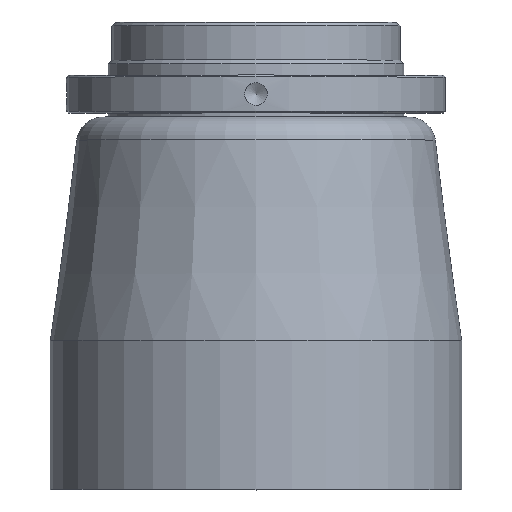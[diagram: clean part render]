
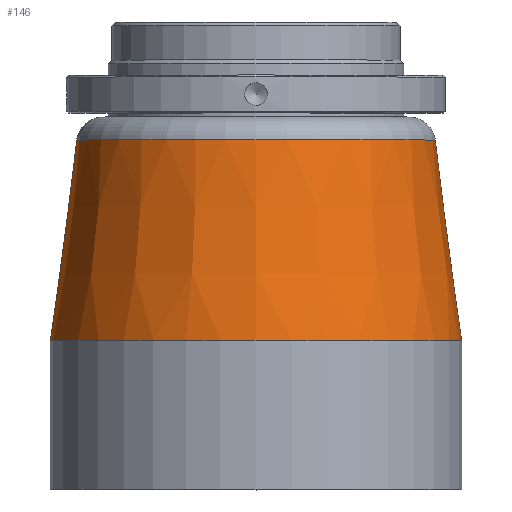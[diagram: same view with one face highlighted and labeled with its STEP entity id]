
A CAD part, top view. The second image highlights one B-rep face of the part: STEP entity #146.
In plain terms, the highlighted conical face has half-angle 7.5 degrees and reference radius 47.285 mm.
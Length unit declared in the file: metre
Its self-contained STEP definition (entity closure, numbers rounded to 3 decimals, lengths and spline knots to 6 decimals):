
#146=ADVANCED_FACE('',(#331,#332),#333,.T.);
#331=FACE_OUTER_BOUND('',#611,.T.);
#332=FACE_BOUND('',#612,.T.);
#333=CONICAL_SURFACE('',#613,0.047285,0.131);
#611=EDGE_LOOP('',(#917));
#612=EDGE_LOOP('',(#918));
#613=AXIS2_PLACEMENT_3D('',#919,#920,#921);
#917=ORIENTED_EDGE('',*,*,#1360,.T.);
#918=ORIENTED_EDGE('',*,*,#1361,.F.);
#919=CARTESIAN_POINT('',(0.114636,0.084691,0.0));
#920=DIRECTION('',(0.0,-1.0,-0.0));
#921=DIRECTION('',(0.0,0.0,-1.0));
#1360=EDGE_CURVE('',#1567,#1567,#1568,.T.);
#1361=EDGE_CURVE('',#1569,#1569,#1570,.T.);
#1567=VERTEX_POINT('',#1903);
#1568=CIRCLE('',#1904,0.05425);
#1569=VERTEX_POINT('',#1905);
#1570=CIRCLE('',#1906,0.047285);
#1903=CARTESIAN_POINT('',(0.114636,0.03179,0.05425));
#1904=AXIS2_PLACEMENT_3D('',#2352,#2353,#2354);
#1905=CARTESIAN_POINT('',(0.114636,0.084691,0.047285));
#1906=AXIS2_PLACEMENT_3D('',#2355,#2356,#2357);
#2352=CARTESIAN_POINT('',(0.114636,0.03179,0.0));
#2353=DIRECTION('',(0.0,1.0,0.0));
#2354=DIRECTION('',(0.0,0.0,1.0));
#2355=CARTESIAN_POINT('',(0.114636,0.084691,0.0));
#2356=DIRECTION('',(0.0,1.0,0.0));
#2357=DIRECTION('',(0.0,0.0,1.0));
